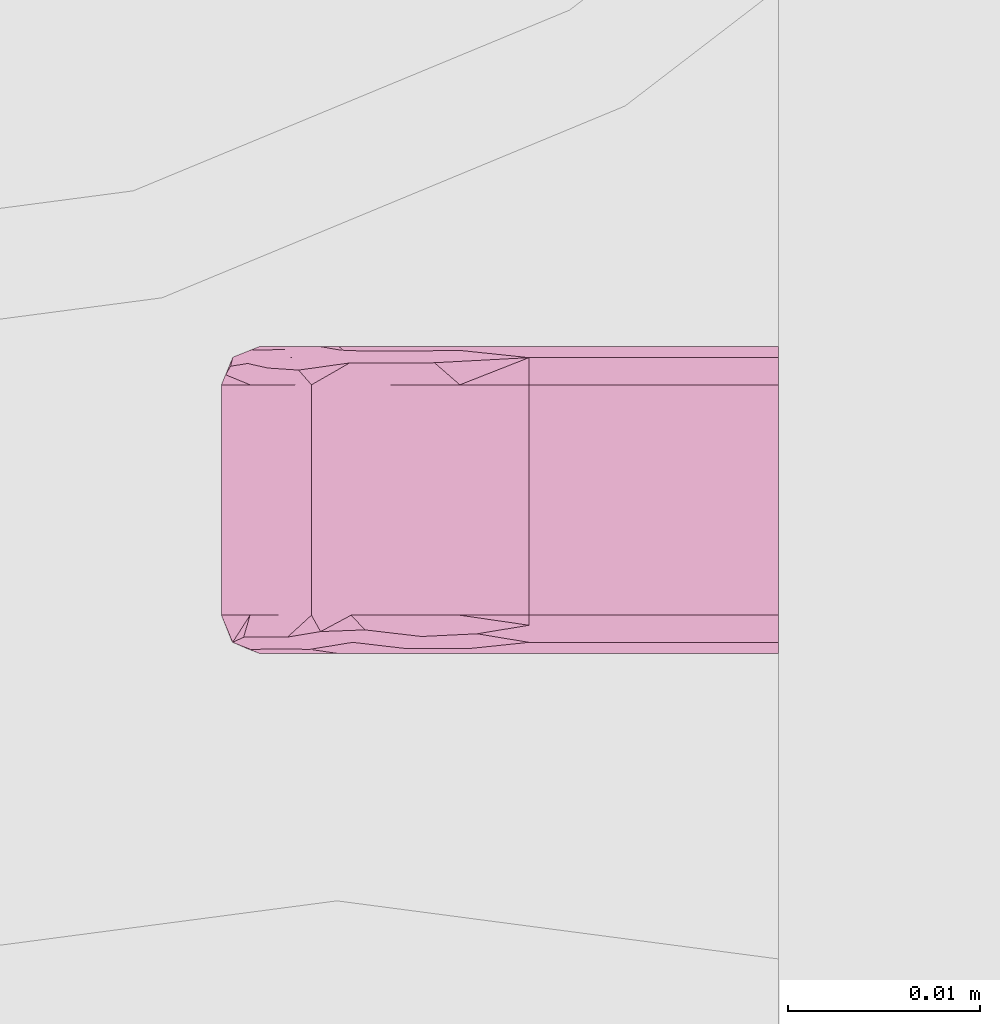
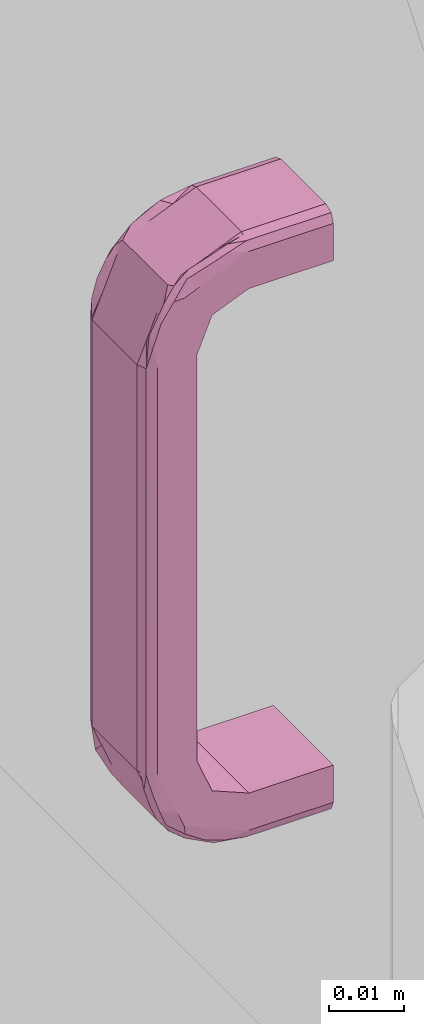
# One storey, part 56 of 65: 1 furnishing.
"""IFC2X3 building model written with IfcOpenShell, lengths in millimetres."""

from ifc_helpers import new_model, entity, si_unit, converted_unit, direction, frame, origin, place, context, subcontext, project, spatial, faceted_brep, source, transform, mapped, material, type_object, type_shapes, element, save


model = new_model("IFC2X3")

# Units and contexts
model_context = context("Model", 3, precision=0.01, world=origin(), true_north=direction((0.0, 1.0)))
body_context = subcontext(model_context, "Body", "Model", "MODEL_VIEW")
ifc_project = project(units=[si_unit("LENGTHUNIT", "METRE", prefix="MILLI"), si_unit("AREAUNIT", "SQUARE_METRE"), si_unit("VOLUMEUNIT", "CUBIC_METRE"), converted_unit("PLANEANGLEUNIT", "DEGREE", entity("IfcPlaneAngleMeasure", 0.017453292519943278), si_unit("PLANEANGLEUNIT", "RADIAN"), dimensions=[0, 0, 0, 0, 0, 0, 0])], contexts=[model_context])

# Site, building, storey, space
site_placement = place(None, origin())
site = spatial("IfcSite", under=ifc_project, at=site_placement, Name="Default", CompositionType="ELEMENT")
building_placement = place(site_placement, origin())
building = spatial("IfcBuilding", under=site, at=building_placement, CompositionType="ELEMENT")
storey_placement = place(building_placement, origin())
storey = spatial("IfcBuildingStorey", under=building, at=storey_placement, Name="Et. 1", CompositionType="ELEMENT", Elevation=0.0)
space_placement = place(storey_placement, origin())
space = spatial("IfcSpace", under=storey, at=space_placement, Name="113", CompositionType="ELEMENT", InteriorOrExteriorSpace="INTERNAL")

# Furnishing
ifc_material = material(Name="Focus - Kjøkken - Håndtak")
furniture_type = type_object("IfcFurnitureType", Name="Focus - Håndtak Skap:Håndtak skap", AssemblyPlace="NOTDEFINED", material=ifc_material)
shared_shape = source(origin(), body_context, "Body", "Brep", [
    faceted_brep([(-8.0, 0.0, 2.021099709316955), (-8.0, 0.0, -4.0210997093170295), (8.0, 0.0, -4.0210997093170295), (8.0, 0.0, 2.0210997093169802), (7.414213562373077, 0.0, 3.435313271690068), (6.0, 0.0, 4.021099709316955), (-6.0, 0.0, 4.021099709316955), (-7.414213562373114, 0.0, 3.435313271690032), (-6.0, 0.0, -94.02109970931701), (6.0, 0.0, -94.02109970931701), (7.414213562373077, 0.0, -93.43531327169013), (8.0, 0.0, -92.02109970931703), (8.0, 0.0, -85.97890029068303), (-8.0, 0.0, -85.97890029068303), (-8.0, 0.0, -92.02109970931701), (-7.414213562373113, 0.0, -93.43531327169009), (7.414213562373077, 13.0, 3.4353132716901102), (6.0, 13.0, 4.021099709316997), (8.0, 13.0, 2.0210997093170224), (7.707106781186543, 13.0, 2.728206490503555), (8.0, 13.0, -4.021099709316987), (8.0, 18.641934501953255, -6.358065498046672), (8.0, 20.97890029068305, -12.0), (8.0, 20.978900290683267, -78.0), (8.0, 18.64193450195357, -83.64193450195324), (8.0, 13.0, -85.97890029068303), (8.0, 13.0, -92.02109970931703), (8.0, 15.478603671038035, -90.99442845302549), (8.0, 17.957207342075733, -89.96775719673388), (8.0, 20.435811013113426, -88.94108594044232), (8.0, 22.914414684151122, -87.91441468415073), (8.0, 24.221910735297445, -84.75783998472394), (8.0, 25.52940678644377, -81.60126528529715), (8.0, 27.021099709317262, -78.0), (8.0, 27.021099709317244, -65.65496001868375), (8.0, 27.021099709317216, -57.34504034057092), (8.0, 27.02109970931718, -47.01756015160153), (8.0, 27.02109970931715, -36.69007996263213), (8.0, 27.021099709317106, -24.345039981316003), (8.0, 27.021099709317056, -12.0), (8.0, 25.994428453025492, -9.521396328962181), (8.0, 24.967757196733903, -7.042792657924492), (8.0, 23.941085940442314, -4.564188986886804), (8.0, 22.914414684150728, -2.0855853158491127), (8.0, 19.757839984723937, -0.7780892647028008), (8.0, 16.60126528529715, 0.5294067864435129), (-8.0, 13.0, -4.021099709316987), (-8.0, 13.0, -92.021099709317), (-8.0, 13.0, -85.97890029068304), (-8.0, 18.64193450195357, -83.64193450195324), (-8.0, 20.978900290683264, -78.0), (-8.0, 20.978900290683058, -12.0), (-8.0, 18.641934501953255, -6.358065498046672), (-8.0, 13.0, 2.0210997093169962), (-8.0, 15.478603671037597, 0.9944284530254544), (-8.0, 17.9572073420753, -0.032242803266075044), (-8.0, 20.435811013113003, -1.0589140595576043), (-8.0, 22.914414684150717, -2.0855853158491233), (-8.0, 24.221910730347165, -5.242160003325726), (-8.0, 25.529406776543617, -8.398734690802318), (-8.0, 27.021099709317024, -12.0), (-8.0, 27.021099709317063, -24.345040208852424), (-8.0, 27.0210997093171, -34.67252000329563), (-8.0, 27.02109970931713, -44.99999979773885), (-8.0, 27.021099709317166, -55.32747999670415), (-8.0, 27.0210997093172, -65.65496019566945), (-8.0, 27.021099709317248, -78.0), (-8.0, 25.99442845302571, -80.47860367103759), (-8.0, 24.967757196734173, -82.9572073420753), (-8.0, 23.941085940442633, -85.43581101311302), (-8.0, 22.914414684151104, -87.91441468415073), (-8.0, 19.757839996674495, -89.22191073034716), (-8.0, 16.601265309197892, -90.52940677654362), (-7.414213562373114, 13.0, 3.4353132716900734), (-6.0, 13.0, 4.021099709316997), (-6.523051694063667, 13.0, 3.804444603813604), (7.761199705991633, 19.75591670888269, 1.3575143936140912), (7.776828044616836, 22.64140257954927, -0.588486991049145), (7.832026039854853, 25.954055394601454, -4.794062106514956), (6.765366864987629, 25.00295364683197, -1.6197407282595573), (6.0, 25.18317105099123, -2.734420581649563), (6.0, 24.3286282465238, -0.6713717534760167), (7.148530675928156, 17.923500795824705, 2.864246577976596), (7.138822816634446, 22.341444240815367, 0.575216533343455), (6.0, 20.202530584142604, 1.03771385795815), (7.108929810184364, 27.65191997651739, -6.400304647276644), (6.0, 27.52940678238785, -8.39873470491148), (6.0, 26.674863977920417, -6.335685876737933), (6.0, 26.037713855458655, -4.797469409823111), (6.873580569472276, 26.59747716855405, -3.913704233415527), (6.0, 25.501746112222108, -3.5035288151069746), (7.807346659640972, 27.454202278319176, -8.476170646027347), (7.78360390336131, 16.52927433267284, 2.502698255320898), (6.0, 16.60126529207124, 2.529406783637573), (7.414213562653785, 25.4087319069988, -2.820007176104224), (6.0, 21.496471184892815, 0.5017461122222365), (6.968390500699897, 28.538770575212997, -9.30339655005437), (6.523051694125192, 28.80444460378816, -12.0), (6.0, 29.021099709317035, -12.0), (6.0, 27.847981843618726, -9.167842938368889), (7.414213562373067, 28.43531327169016, -12.0), (6.0, 18.664314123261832, 1.67486397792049), (-6.0, 15.832157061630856, 2.8479818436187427), (-6.0, 16.601265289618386, 2.529406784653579), (-7.76119969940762, 26.357514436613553, -5.2440833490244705), (-7.783603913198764, 27.502698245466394, -8.470725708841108), (-7.10892981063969, 18.599695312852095, 2.651919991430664), (-6.0, 18.664314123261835, 1.67486397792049), (-6.0, 20.202530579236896, 1.0377138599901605), (-7.744591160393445, 19.340507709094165, 1.5930015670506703), (-7.730939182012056, 16.04875454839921, 2.7104148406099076), (-6.76536686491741, 21.540484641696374, 1.3746327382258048), (-6.0, 21.496471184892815, 0.5017461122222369), (-6.0, 22.265579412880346, 0.18317105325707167), (-7.13882282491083, 25.57521654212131, -2.658555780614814), (-7.1485306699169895, 27.864246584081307, -7.076499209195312), (-6.0, 26.037713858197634, -4.797469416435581), (-7.414213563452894, 22.17999279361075, 0.4087319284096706), (-7.776828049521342, 24.411513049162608, -2.35859748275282), (-6.853012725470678, 23.855367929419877, -0.47819170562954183), (-6.0, 27.52940678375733, -8.398734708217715), (-7.414213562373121, 28.43531327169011, -12.0), (-6.0, 24.3286282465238, -0.6713717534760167), (-6.0, 25.501746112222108, -3.503528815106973), (-7.7071067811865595, 27.728206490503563, -12.0), (-6.96839049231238, 15.696603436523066, 3.5387705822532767), (-6.0, 29.021099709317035, -12.0), (-6.0, 26.674863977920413, -6.335685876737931), (7.414213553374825, 28.435313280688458, -29.508780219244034), (7.450985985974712, 28.39755881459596, -41.85381987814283), (6.0, 29.02109970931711, -34.6725200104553), (7.414213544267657, 28.435313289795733, -61.499999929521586), (7.4142135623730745, 28.435313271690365, -78.0), (6.0, 29.021099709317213, -65.65496164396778), (6.0, 29.02109970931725, -78.0), (6.0, 29.02109970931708, -24.345039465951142), (7.707106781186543, 27.728206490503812, -78.0), (6.0, 29.021099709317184, -55.32748109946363), (6.0, 29.02109970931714, -45.00000055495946), (-6.0, 29.02109970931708, -24.345039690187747), (-6.0, 29.02109970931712, -36.69007989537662), (-7.414213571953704, 28.43531326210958, -29.508780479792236), (-7.41421357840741, 28.435313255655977, -61.4999999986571), (-7.414213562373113, 28.43531327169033, -78.0), (-7.3764591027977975, 28.472085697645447, -41.85382016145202), (-6.0, 29.02109970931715, -47.0175595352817), (-6.0, 29.02109970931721, -65.65495979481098), (-6.0, 29.02109970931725, -78.0), (-6.523051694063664, 28.80444460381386, -78.0), (-6.0, 29.021099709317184, -57.345039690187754), (7.7611997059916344, 26.35751439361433, -84.75591670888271), (7.776828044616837, 24.411513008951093, -87.64140257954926), (7.832026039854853, 20.205937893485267, -90.95405539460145), (7.138822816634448, 25.575216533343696, -87.34144424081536), (6.7653668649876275, 23.380259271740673, -90.00295364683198), (6.0, 24.328628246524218, -89.32862824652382), (7.148530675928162, 27.864246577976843, -82.92350079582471), (6.0, 26.037713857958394, -85.2025305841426), (7.108929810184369, 18.599695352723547, -92.6519199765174), (6.0, 16.60126529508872, -92.52940678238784), (6.0, 18.66431412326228, -91.67486397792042), (6.0, 20.202530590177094, -91.03771385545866), (6.0, 22.265579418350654, -90.18317105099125), (7.807346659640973, 16.523829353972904, -92.45420227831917), (7.783603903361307, 27.50269825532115, -81.52927433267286), (6.0, 27.529406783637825, -81.60126529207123), (6.873580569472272, 21.08629576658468, -91.59747716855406), (7.414213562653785, 22.179992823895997, -90.40873190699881), (6.0, 25.50174611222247, -86.49647118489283), (6.968390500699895, 15.69660344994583, -93.538770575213), (6.52305169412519, 13.0, -93.80444460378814), (6.0, 13.0, -94.02109970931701), (6.0, 15.832157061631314, -92.84798184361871), (7.414213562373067, 13.0, -93.43531327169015), (6.0, 26.67486397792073, -83.66431412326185), (6.0, 21.49647118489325, -90.50174611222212), (-6.0, 27.847981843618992, -80.83215706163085), (-6.0, 27.529406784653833, -81.60126528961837), (-7.761199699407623, 19.75591665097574, -91.35751443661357), (-7.783603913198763, 16.529274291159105, -92.50269824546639), (-7.108929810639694, 27.651919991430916, -83.59969531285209), (-6.0, 26.674863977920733, -83.66431412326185), (-6.0, 26.037713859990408, -85.20253057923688), (-7.74459116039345, 26.593001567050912, -84.34050770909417), (-7.730939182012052, 27.71041484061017, -81.04875454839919), (-6.76536686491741, 26.374632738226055, -86.54048464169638), (-6.0, 25.50174611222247, -86.49647118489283), (-6.0, 25.183171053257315, -87.26557941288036), (-7.138822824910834, 22.341444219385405, -90.57521654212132), (-7.148530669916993, 17.923500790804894, -92.8642465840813), (-6.0, 20.202530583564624, -91.03771385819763), (-7.414213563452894, 25.40873192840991, -87.17999279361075), (-7.7768280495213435, 22.641402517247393, -89.41151304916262), (-6.853012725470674, 24.521808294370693, -88.8553679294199), (-6.0, 16.60126529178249, -92.52940678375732), (-7.41421356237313, 13.0, -93.43531327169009), (-6.0, 24.328628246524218, -89.32862824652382), (-6.0, 21.49647118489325, -90.50174611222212), (-7.707106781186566, 13.0, -92.72820649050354), (-6.96839049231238, 28.538770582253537, -80.69660343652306), (-6.0, 13.0, -94.02109970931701), (-6.0, 18.66431412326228, -91.67486397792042)], [[[0, 1, 2, 3, 4, 5, 6, 7]], [[8, 9, 10, 11, 12, 13, 14, 15]], [[5, 4, 16, 17]], [[3, 18, 19, 16, 4]], [[18, 3, 2, 20, 21, 22, 23, 24, 25, 12, 11, 26, 27, 28, 29, 30, 31, 32, 33, 34, 35, 36, 37, 38, 39, 40, 41, 42, 43, 44, 45]], [[20, 2, 1, 46]], [[47, 14, 13, 48, 49, 50, 51, 52, 46, 1, 0, 53, 54, 55, 56, 57, 58, 59, 60, 61, 62, 63, 64, 65, 66, 67, 68, 69, 70, 71, 72]], [[0, 7, 73, 53]], [[6, 74, 75, 73, 7]], [[17, 74, 6, 5]], [[76, 44, 77]], [[42, 41, 78]], [[79, 80, 81]], [[82, 83, 84]], [[85, 86, 87, 88]], [[89, 88, 90, 80]], [[78, 41, 91]], [[45, 76, 92]], [[82, 93, 16]], [[85, 89, 94]], [[83, 81, 95, 84]], [[96, 97, 86]], [[83, 82, 76]], [[78, 77, 42]], [[79, 94, 89]], [[42, 77, 43]], [[82, 16, 92]], [[92, 16, 19, 18]], [[97, 98, 99, 86]], [[91, 39, 100]], [[83, 76, 77]], [[92, 18, 45]], [[83, 77, 94]], [[43, 77, 44]], [[76, 45, 44]], [[92, 76, 82]], [[17, 16, 93]], [[82, 84, 101, 93]], [[79, 83, 94]], [[79, 81, 83]], [[79, 89, 80]], [[89, 85, 88]], [[78, 94, 77]], [[78, 85, 94]], [[85, 78, 91]], [[91, 96, 85]], [[40, 39, 91, 41]], [[100, 97, 96]], [[100, 96, 91]], [[85, 96, 86]], [[20, 46, 52, 21]], [[52, 51, 22, 21]], [[75, 74, 102, 103]], [[59, 104, 105]], [[106, 103, 107, 108]], [[106, 109, 110]], [[111, 108, 112, 113]], [[114, 115, 104]], [[116, 115, 114]], [[117, 56, 109]], [[104, 58, 118]], [[117, 109, 106]], [[111, 119, 117]], [[115, 120, 121]], [[114, 122, 123, 116]], [[119, 111, 113]], [[118, 117, 119]], [[56, 118, 57]], [[115, 121, 105]], [[105, 121, 124, 60]], [[73, 125, 110]], [[106, 110, 125]], [[114, 104, 118]], [[105, 60, 59]], [[119, 114, 118]], [[57, 118, 58]], [[104, 59, 58]], [[105, 104, 115]], [[126, 121, 120]], [[115, 116, 127, 120]], [[111, 106, 108]], [[111, 117, 106]], [[119, 122, 114]], [[122, 119, 113]], [[117, 118, 56]], [[73, 75, 125]], [[125, 75, 103]], [[106, 125, 103]], [[110, 53, 73]], [[109, 56, 55, 54]], [[54, 110, 109]], [[54, 53, 110]], [[123, 122, 81, 80, 90, 88, 87, 86, 99, 98, 126, 120, 127, 116]], [[81, 122, 113, 112, 108, 107, 103, 102, 74, 17, 93, 101, 84, 95]], [[100, 38, 37, 128]], [[128, 129, 130]], [[131, 129, 36]], [[131, 132, 133]], [[132, 134, 133]], [[135, 98, 97, 100]], [[135, 100, 128, 130]], [[131, 36, 35, 34]], [[34, 33, 136, 132]], [[100, 39, 38]], [[132, 131, 34]], [[131, 137, 129]], [[36, 129, 37]], [[129, 137, 138, 130]], [[129, 128, 37]], [[131, 133, 137]], [[23, 22, 51, 50]], [[121, 139, 140, 141]], [[142, 143, 65]], [[142, 144, 145]], [[146, 147, 148, 143]], [[121, 126, 139]], [[143, 66, 65]], [[61, 60, 124, 121]], [[61, 121, 141, 62]], [[142, 145, 149, 146]], [[141, 144, 62]], [[143, 142, 146]], [[142, 64, 144]], [[145, 144, 140]], [[144, 64, 63, 62]], [[144, 141, 140]], [[142, 65, 64]], [[126, 98, 135, 130, 138, 137, 133, 134, 147, 146, 149, 145, 140, 139]], [[150, 31, 151]], [[29, 28, 152]], [[153, 154, 155]], [[156, 153, 157]], [[158, 159, 160, 161]], [[162, 155, 154]], [[152, 28, 163]], [[32, 150, 164]], [[156, 165, 132]], [[158, 166, 167]], [[153, 155, 168, 157]], [[169, 170, 159]], [[153, 156, 150]], [[152, 151, 29]], [[154, 167, 166]], [[29, 151, 30]], [[156, 132, 164]], [[164, 132, 136, 33]], [[170, 171, 172, 159]], [[163, 26, 173]], [[153, 150, 151]], [[164, 33, 32]], [[153, 151, 167]], [[30, 151, 31]], [[150, 32, 31]], [[164, 150, 156]], [[134, 132, 165]], [[156, 157, 174, 165]], [[166, 161, 175, 162]], [[167, 154, 153]], [[154, 166, 162]], [[166, 158, 161]], [[152, 167, 151]], [[152, 158, 167]], [[158, 152, 163]], [[163, 169, 158]], [[27, 26, 163, 28]], [[173, 170, 169]], [[173, 169, 163]], [[158, 169, 159]], [[23, 50, 49, 24]], [[49, 48, 25, 24]], [[148, 147, 176, 177]], [[72, 178, 179]], [[180, 177, 181, 182]], [[180, 183, 184]], [[185, 182, 186, 187]], [[188, 189, 178]], [[190, 189, 188]], [[191, 69, 183]], [[178, 71, 192]], [[191, 183, 180]], [[185, 193, 191]], [[189, 194, 195]], [[188, 196, 197, 190]], [[193, 185, 187]], [[192, 191, 193]], [[69, 192, 70]], [[189, 195, 179]], [[179, 195, 198, 47]], [[143, 199, 184]], [[180, 184, 199]], [[188, 178, 192]], [[179, 47, 72]], [[193, 188, 192]], [[70, 192, 71]], [[178, 72, 71]], [[179, 178, 189]], [[200, 195, 194]], [[189, 190, 201, 194]], [[185, 180, 182]], [[185, 191, 180]], [[193, 196, 188]], [[196, 193, 187]], [[191, 192, 69]], [[143, 148, 199]], [[199, 148, 177]], [[180, 199, 177]], [[184, 66, 143]], [[183, 69, 68, 67]], [[67, 184, 183]], [[67, 66, 184]], [[197, 196, 155, 162, 175, 161, 160, 159, 172, 171, 200, 194, 201, 190]], [[155, 196, 187, 186, 182, 181, 177, 176, 147, 134, 165, 174, 157, 168]], [[171, 170, 173, 10, 9]], [[26, 11, 10, 173]], [[13, 12, 25, 48]], [[47, 198, 195, 15, 14]], [[200, 8, 15, 195]], [[8, 200, 171, 9]]]),
])
type_shapes(furniture_type, [shared_shape])
furnishing_placement = place(space_placement, frame((33549.00958675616, 10296.058719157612, 1440.0), z_axis=(0.0, 0.0, 1.0), x_axis=(0.0, 1.0, 0.0)))
element("IfcFurnishingElement", 1, at=furnishing_placement, inside=space, type_object=furniture_type, material=ifc_material, Name="Focus - Håndtak Skap:Håndtak skap", context=body_context, shape_type="MappedRepresentation", body=[
    mapped(shared_shape, transform((0.0, 0.0, 0.0), scale=1.0)),
])

save(model, "model.ifc")
